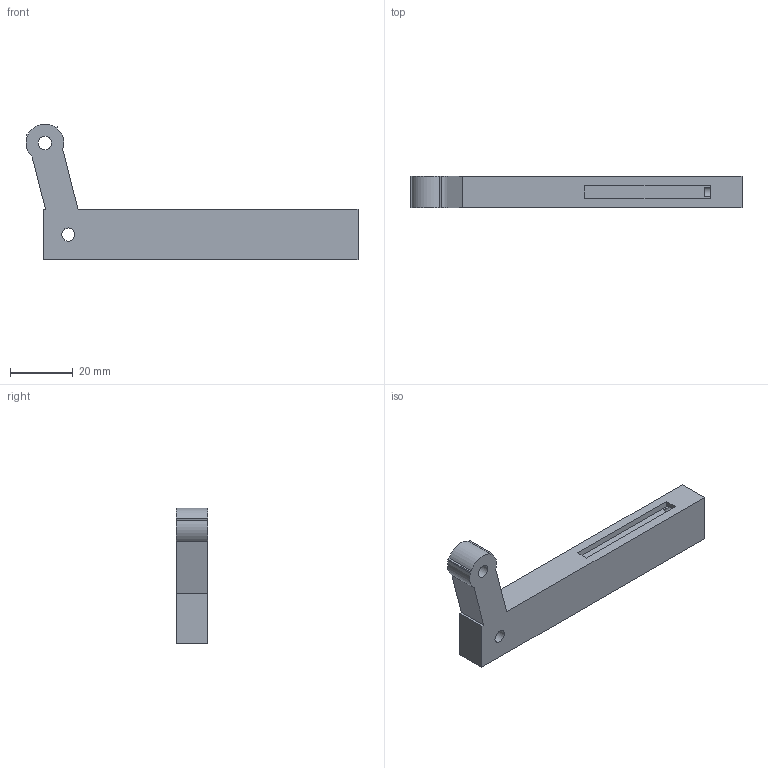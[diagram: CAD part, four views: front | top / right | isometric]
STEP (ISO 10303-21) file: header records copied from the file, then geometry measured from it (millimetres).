
FILE_DESCRIPTION(('Open CASCADE Model'),'2;1');
FILE_NAME('Open CASCADE Shape Model','2026-07-25T17:39:14',('Author'),( 'Open CASCADE'),'Open CASCADE STEP processor 7.9','build123d', 'Unknown');
FILE_SCHEMA(('AUTOMOTIVE_DESIGN { 1 0 10303 214 1 1 1 1 }'));
Length unit declared in the file: millimetre
Products named in the file (2): =>[0:1:1:2]; COMPOUND
Assembly tree (1 placements, depth 2):
  =>[0:1:1:2]
    COMPOUND
Bounding box: 105.42 x 10 x 43.05 mm (x, y, z)
Volume: 17961.7 mm3; surface area: 7343.8 mm2
Topology: 1 solids, 1 shells, 560 faces, 1536 edges, 1024 vertices
Faces by surface type: extrusion 333, plane 220, cylinder 7
Full cylindrical faces by diameter (mm): 3.4 x2, 4.2 x2
Entity records: 43100 total; most frequent: CARTESIAN_POINT 15903, DIRECTION 3409, ORIENTED_EDGE 3072, PCURVE 3072, DEFINITIONAL_REPRESENTATION 3072, VECTOR 2904, LINE 2571, B_SPLINE_CURVE_WITH_KNOTS 2338
